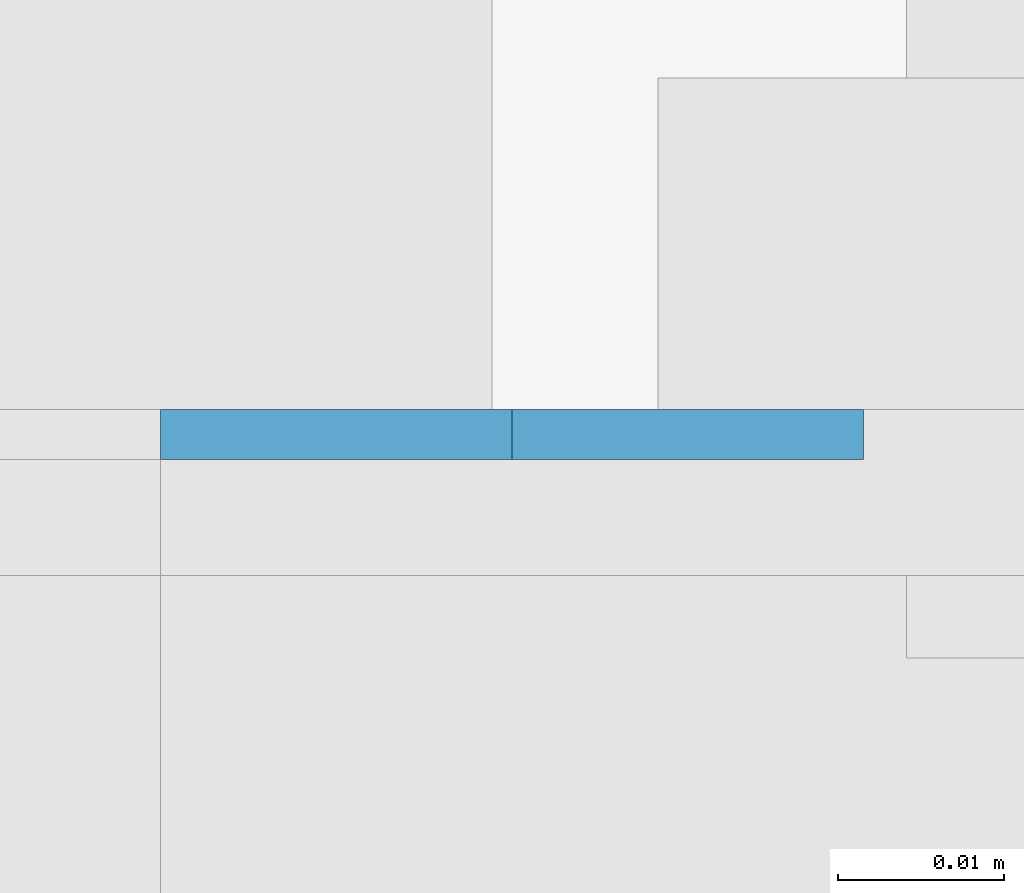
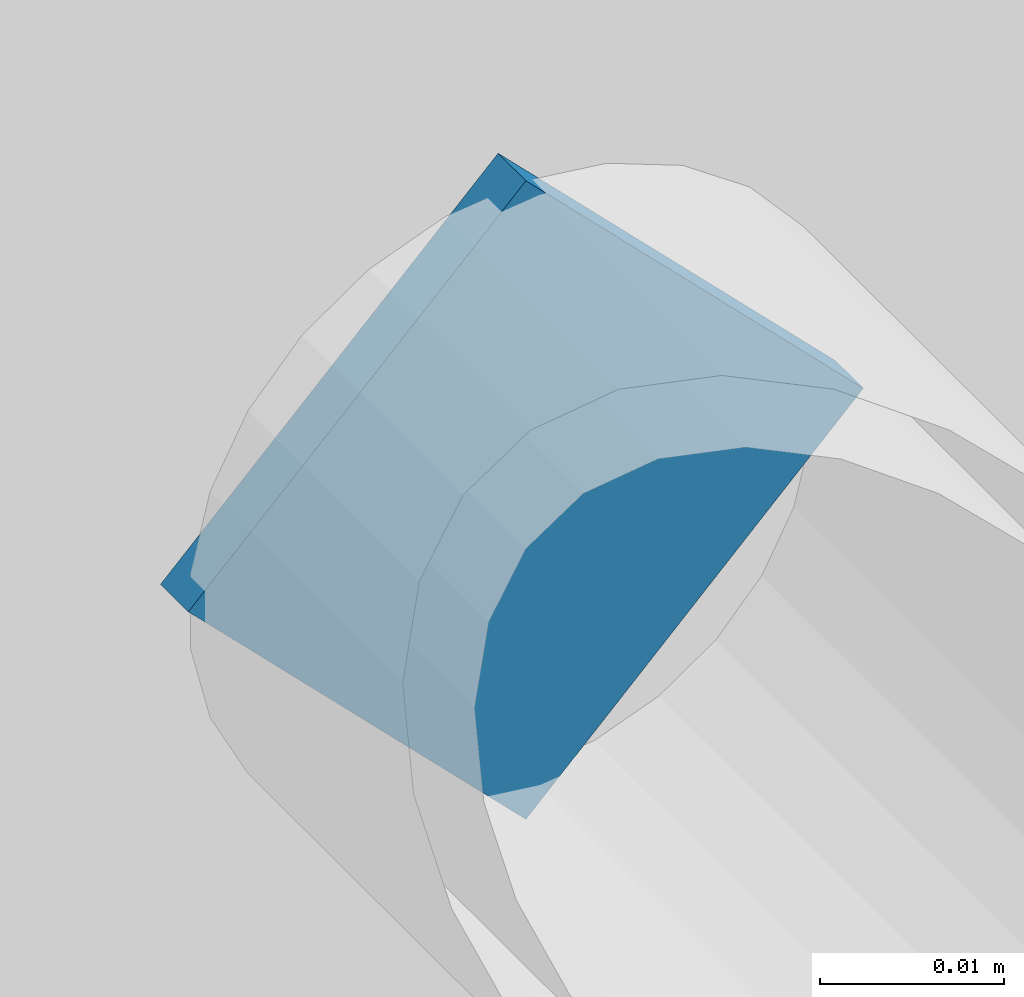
# One storey, part 231 of 831: 1 plate, 4 openings.
"""IFC2X3 building model written with IfcOpenShell, lengths in millimetres."""

from ifc_helpers import new_model, entity, si_unit, converted_unit, point, frame, frame_2d, origin, origin_with_axes, place, context, project, spatial, polyline, circle_curve, line_curve, trimmed, segment, composite_curve, outline, extrude, material, layer, layer_set, element, save


model = new_model("IFC2X3")

# Units and contexts
model_context = context("Model", 3, precision=1e-09, world=origin_with_axes())
ifc_project = project(units=[si_unit("LENGTHUNIT", "METRE", prefix="MILLI"), si_unit("AREAUNIT", "SQUARE_METRE"), si_unit("VOLUMEUNIT", "CUBIC_METRE"), converted_unit("PLANEANGLEUNIT", "DEGREE", entity("IfcPlaneAngleMeasure", 0.01745329), si_unit("PLANEANGLEUNIT", "RADIAN"), dimensions=[0, 0, 0, 0, 0, 0, 0])], contexts=[model_context])

# Site, building, storey
site_placement = place(None, origin_with_axes())
site = spatial("IfcSite", under=ifc_project, at=site_placement, Name="Site", CompositionType="ELEMENT")
building_placement = place(site_placement, origin_with_axes())
building = spatial("IfcBuilding", under=site, at=building_placement, Name="Struktur 1", CompositionType="ELEMENT")
storey_placement = place(building_placement, origin_with_axes())
storey = spatial("IfcBuildingStorey", under=building, at=storey_placement, Name="Default Storey", CompositionType="ELEMENT", Elevation=0.0)

# Plate, openings
ifc_material = material(Name="S235JR")
ifc_layer = layer(ifc_material, 3.0)
ifc_layer_set = layer_set([ifc_layer], Name="S235JR")
plate_placement = place(None, frame((4626.713413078, 7608.73698848, 18974.000041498), z_axis=(0.0, 1.0, 0.0), x_axis=(0.0, 0.0, 1.0)))
plate = element("IfcPlate", 1, at=plate_placement, inside=storey, material=ifc_layer_set, Name="-", ObjectType="-", context=model_context, shape_type="SweptSolid", body=[
    extrude(outline(polyline([(21.2, 0.0), (21.2, 42.4), (-21.2, 42.4), (-21.2, 0.0), (21.2, 0.0)])), origin_with_axes(), (0.0, 0.0, 1.0), 3.0),
])
opening_1_placement = place(plate_placement, frame((0.0, 0.0, -0.01), z_axis=(0.0, 0.0, 1.0), x_axis=(1.0, 0.0, 0.0)))
element("IfcOpeningElement", 2, at=opening_1_placement, cuts=plate, ObjectType="Opening", context=model_context, shape_type="SweptSolid", body=[
    extrude(outline(composite_curve([segment(trimmed(line_curve((21.2, 0.0), (0.0, 1.0), 21.2), [point((21.2, 0.0))], [point((21.2, 21.2))], True, "CARTESIAN"), True, "CONTINUOUS"), segment(trimmed(circle_curve(frame_2d((0.0, 21.2), x_axis=(-1.0, 0.0)), 21.2), [point((21.2, 21.2))], [point((0.0, 0.0))], False, "CARTESIAN"), True, "CONTINUOUS"), segment(trimmed(line_curve((0.0, 0.0), (1.0, 0.0), 21.2), [point((0.0, 0.0))], [point((21.2, 0.0))], True, "CARTESIAN"), True, "CONTINUOUS")], self_intersect=False)), origin(), (0.0, 0.0, 1.0), 3.02),
])
opening_2_placement = place(plate_placement, frame((0.0, 0.0, -0.01), z_axis=(0.0, 0.0, 1.0), x_axis=(1.0, 0.0, 0.0)))
element("IfcOpeningElement", 3, at=opening_2_placement, cuts=plate, ObjectType="Opening", context=model_context, shape_type="SweptSolid", body=[
    extrude(outline(composite_curve([segment(trimmed(line_curve((21.2, 42.4), (-1.0, 0.0), 21.2), [point((21.2, 42.4))], [point((0.0, 42.4))], True, "CARTESIAN"), True, "CONTINUOUS"), segment(trimmed(circle_curve(frame_2d((0.0, 21.2), x_axis=(-1.0, 0.0)), 21.2), [point((0.0, 42.4))], [point((21.2, 21.2))], False, "CARTESIAN"), True, "CONTINUOUS"), segment(trimmed(line_curve((21.2, 21.2), (0.0, 1.0), 21.2), [point((21.2, 21.2))], [point((21.2, 42.4))], True, "CARTESIAN"), True, "CONTINUOUS")], self_intersect=False)), origin(), (0.0, 0.0, 1.0), 3.02),
])
opening_3_placement = place(plate_placement, frame((0.0, 0.0, -0.01), z_axis=(0.0, 0.0, 1.0), x_axis=(1.0, 0.0, 0.0)))
element("IfcOpeningElement", 4, at=opening_3_placement, cuts=plate, ObjectType="Opening", context=model_context, shape_type="SweptSolid", body=[
    extrude(outline(composite_curve([segment(trimmed(line_curve((-21.2, 42.4), (0.0, -1.0), 21.2), [point((-21.2, 42.4))], [point((-21.2, 21.2))], True, "CARTESIAN"), True, "CONTINUOUS"), segment(trimmed(circle_curve(frame_2d((0.0, 21.2), x_axis=(-1.0, 0.0)), 21.2), [point((-21.2, 21.2))], [point((0.0, 42.4))], False, "CARTESIAN"), True, "CONTINUOUS"), segment(trimmed(line_curve((0.0, 42.4), (-1.0, 0.0), 21.2), [point((0.0, 42.4))], [point((-21.2, 42.4))], True, "CARTESIAN"), True, "CONTINUOUS")], self_intersect=False)), origin(), (0.0, 0.0, 1.0), 3.02),
])
opening_4_placement = place(plate_placement, frame((0.0, 0.0, -0.01), z_axis=(0.0, 0.0, 1.0), x_axis=(1.0, 0.0, 0.0)))
element("IfcOpeningElement", 5, at=opening_4_placement, cuts=plate, ObjectType="Opening", context=model_context, shape_type="SweptSolid", body=[
    extrude(outline(composite_curve([segment(trimmed(line_curve((-21.2, 0.0), (1.0, 0.0), 21.2), [point((-21.2, 0.0))], [point((0.0, 0.0))], True, "CARTESIAN"), True, "CONTINUOUS"), segment(trimmed(circle_curve(frame_2d((0.0, 21.2), x_axis=(-1.0, 0.0)), 21.2), [point((0.0, 0.0))], [point((-21.2, 21.2))], False, "CARTESIAN"), True, "CONTINUOUS"), segment(trimmed(line_curve((-21.2, 21.2), (0.0, -1.0), 21.2), [point((-21.2, 21.2))], [point((-21.2, 0.0))], True, "CARTESIAN"), True, "CONTINUOUS")], self_intersect=False)), origin(), (0.0, 0.0, 1.0), 3.02),
])

save(model, "model.ifc")
